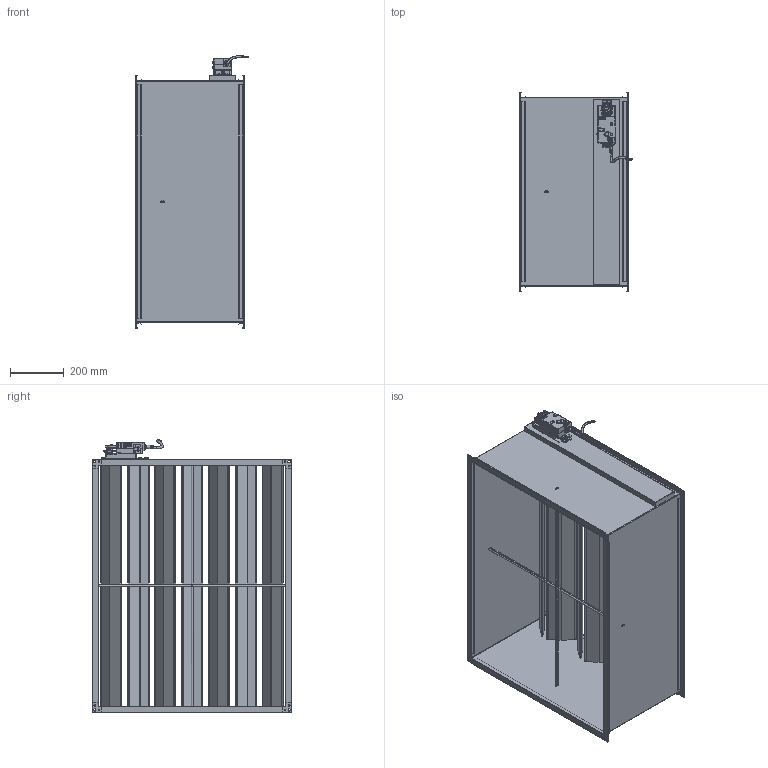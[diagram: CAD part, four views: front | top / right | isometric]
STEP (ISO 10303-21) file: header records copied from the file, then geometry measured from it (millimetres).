
FILE_DESCRIPTION (( 'STEP AP214' ), '1' );
FILE_NAME ('VAV-S900700.STEP', '2025-05-08T12:09:44', ( '' ), ( '' ), 'SwSTEP 2.0', 'SolidWorks 2025', '' );
FILE_SCHEMA (( 'AUTOMOTIVE_DESIGN' ));
Length unit declared in the file: millimetre
Products named in the file (1): VAV-S900700
Bounding box: 420.38 x 741 x 1013.69 mm (x, y, z)
Surface area: 5324670.1 mm2 (no closed solid volume)
Topology: 0 solids, 48 shells, 2134 faces, 5590 edges, 3562 vertices
Faces by surface type: plane 1555, cylinder 526, bspline 24, sphere 18, cone 10, torus 1
Full cylindrical faces by diameter (mm): 1 x4, 6 x17, 8 x1, 9 x6, 9.922 x2, 11 x1, 20 x1, 21 x2
Entity records: 93326 total; most frequent: CARTESIAN_POINT 41844, ORIENTED_EDGE 10969, DIRECTION 7156, EDGE_CURVE 5508, VERTEX_POINT 3537, B_SPLINE_CURVE_WITH_KNOTS 3170, AXIS2_PLACEMENT_3D 2719, EDGE_LOOP 2344
